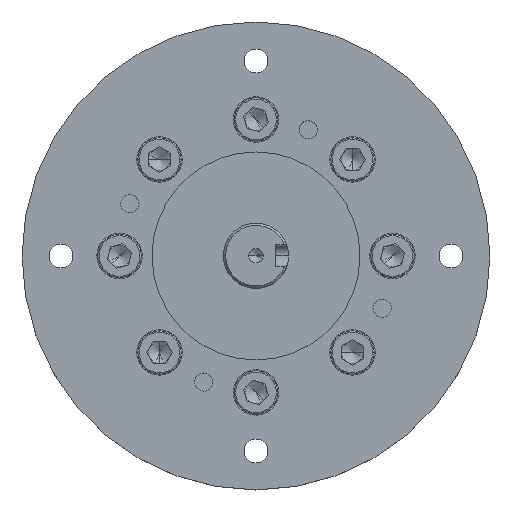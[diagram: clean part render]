
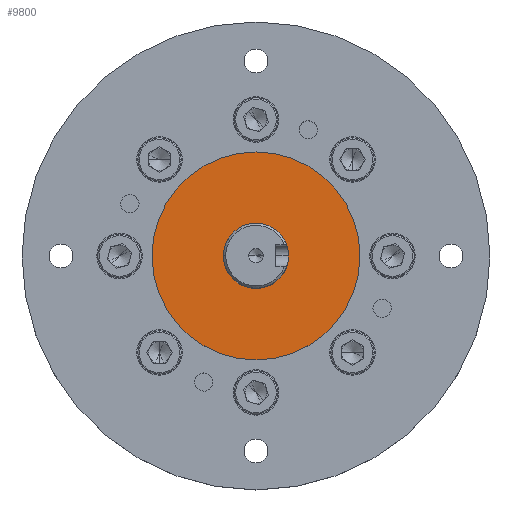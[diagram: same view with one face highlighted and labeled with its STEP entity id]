
A CAD part, top view. The second image highlights one B-rep face of the part: STEP entity #9800.
In plain terms, the highlighted planar face has unit normal (0, 0, 1).
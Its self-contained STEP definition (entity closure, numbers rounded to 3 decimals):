
#408 = AXIS2_PLACEMENT_3D ( 'NONE', #2142, #4301, #11107 ) ;
#491 = DIRECTION ( 'NONE',  ( 0., 0., 1. ) ) ;
#657 = DIRECTION ( 'NONE',  ( 1., 0., 0. ) ) ;
#951 = CARTESIAN_POINT ( 'NONE',  ( -24., 0., 14. ) ) ;
#1194 = CARTESIAN_POINT ( 'NONE',  ( 0., 0., 14. ) ) ;
#1612 = CARTESIAN_POINT ( 'NONE',  ( 0., 0., 14. ) ) ;
#2052 = CARTESIAN_POINT ( 'NONE',  ( 7.5, 0., 14. ) ) ;
#2142 = CARTESIAN_POINT ( 'NONE',  ( 0., 0., 14. ) ) ;
#3015 = CIRCLE ( 'NONE', #10668, 24. ) ;
#3043 = CARTESIAN_POINT ( 'NONE',  ( 24., 0., 14. ) ) ;
#3345 = DIRECTION ( 'NONE',  ( 1., 0., 0. ) ) ;
#3618 = ORIENTED_EDGE ( 'NONE', *, *, #10419, .T. ) ;
#3716 = FACE_BOUND ( 'NONE', #5794, .T. ) ;
#3790 = CARTESIAN_POINT ( 'NONE',  ( -7.5, 0., 14. ) ) ;
#3963 = DIRECTION ( 'NONE',  ( 1., 0., 0. ) ) ;
#4131 = DIRECTION ( 'NONE',  ( 1., 0., 0. ) ) ;
#4265 = AXIS2_PLACEMENT_3D ( 'NONE', #13071, #8685, #4131 ) ;
#4301 = DIRECTION ( 'NONE',  ( 0., 0., 1. ) ) ;
#4650 = ORIENTED_EDGE ( 'NONE', *, *, #13116, .F. ) ;
#5359 = ORIENTED_EDGE ( 'NONE', *, *, #11300, .T. ) ;
#5794 = EDGE_LOOP ( 'NONE', ( #12159, #4650 ) ) ;
#6326 = FACE_OUTER_BOUND ( 'NONE', #6960, .T. ) ;
#6461 = VERTEX_POINT ( 'NONE', #2052 ) ;
#6960 = EDGE_LOOP ( 'NONE', ( #5359, #3618 ) ) ;
#7844 = VERTEX_POINT ( 'NONE', #3043 ) ;
#8685 = DIRECTION ( 'NONE',  ( 0., 0., 1. ) ) ;
#9365 = CIRCLE ( 'NONE', #408, 7.5 ) ;
#9800 = ADVANCED_FACE ( 'NONE', ( #3716, #6326 ), #11712, .T. ) ;
#10419 = EDGE_CURVE ( 'NONE', #13098, #7844, #3015, .T. ) ;
#10668 = AXIS2_PLACEMENT_3D ( 'NONE', #1612, #11631, #657 ) ;
#10704 = CIRCLE ( 'NONE', #4265, 24. ) ;
#11107 = DIRECTION ( 'NONE',  ( 1., 0., 0. ) ) ;
#11161 = DIRECTION ( 'NONE',  ( 0., 0., 1. ) ) ;
#11182 = VERTEX_POINT ( 'NONE', #3790 ) ;
#11300 = EDGE_CURVE ( 'NONE', #7844, #13098, #10704, .T. ) ;
#11410 = EDGE_CURVE ( 'NONE', #6461, #11182, #13813, .T. ) ;
#11631 = DIRECTION ( 'NONE',  ( 0., 0., 1. ) ) ;
#11712 = PLANE ( 'NONE',  #12434 ) ;
#12159 = ORIENTED_EDGE ( 'NONE', *, *, #11410, .F. ) ;
#12434 = AXIS2_PLACEMENT_3D ( 'NONE', #12817, #491, #3963 ) ;
#12817 = CARTESIAN_POINT ( 'NONE',  ( 0., 0., 14. ) ) ;
#13071 = CARTESIAN_POINT ( 'NONE',  ( 0., 0., 14. ) ) ;
#13098 = VERTEX_POINT ( 'NONE', #951 ) ;
#13116 = EDGE_CURVE ( 'NONE', #11182, #6461, #9365, .T. ) ;
#13449 = AXIS2_PLACEMENT_3D ( 'NONE', #1194, #11161, #3345 ) ;
#13813 = CIRCLE ( 'NONE', #13449, 7.5 ) ;
